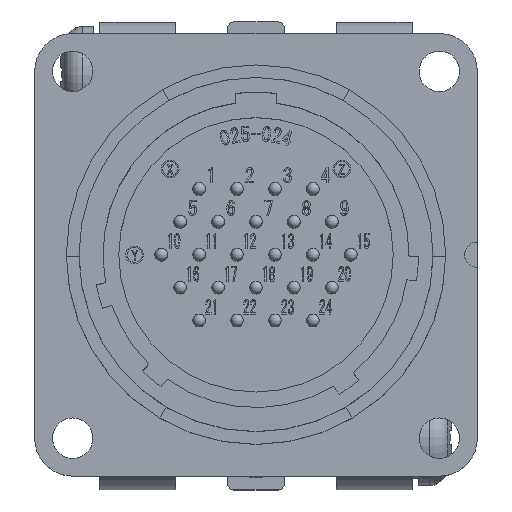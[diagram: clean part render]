
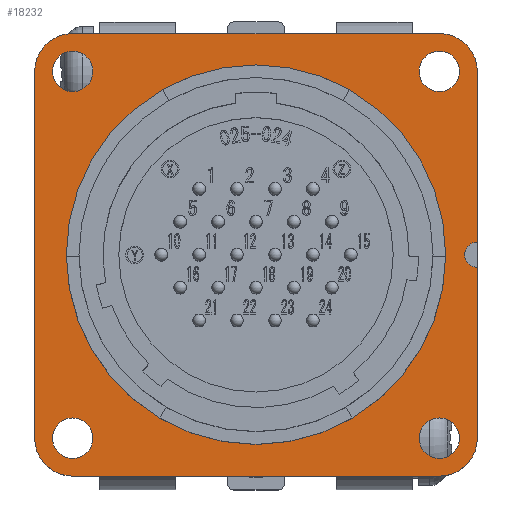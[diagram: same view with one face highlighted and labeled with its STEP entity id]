
A CAD part, top view. The second image highlights one B-rep face of the part: STEP entity #18232.
In plain terms, the highlighted planar face has unit normal (0, 0, 1).
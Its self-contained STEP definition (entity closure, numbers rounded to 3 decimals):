
#2457 = VERTEX_POINT ( 'NONE', #89855 ) ;
#3233 = VERTEX_POINT ( 'NONE', #21543 ) ;
#4975 = DIRECTION ( 'NONE',  ( 1., 0., 0. ) ) ;
#5155 = EDGE_LOOP ( 'NONE', ( #88575, #32588, #54347, #56428, #83318, #48705, #31667, #68125, #7923, #65240 ) ) ;
#5690 = ORIENTED_EDGE ( 'NONE', *, *, #22711, .T. ) ;
#7923 = ORIENTED_EDGE ( 'NONE', *, *, #18303, .F. ) ;
#9465 = EDGE_LOOP ( 'NONE', ( #5690 ) ) ;
#9801 = DIRECTION ( 'NONE',  ( 0., 0., -1. ) ) ;
#9859 = EDGE_CURVE ( 'NONE', #51423, #66897, #44159, .T. ) ;
#10629 = DIRECTION ( 'NONE',  ( 0., 0., 1. ) ) ;
#11690 = DIRECTION ( 'NONE',  ( 0., 0., -1. ) ) ;
#14929 = AXIS2_PLACEMENT_3D ( 'NONE', #59941, #11690, #47399 ) ;
#15503 = CIRCLE ( 'NONE', #14929, 15. ) ;
#15597 = CARTESIAN_POINT ( 'NONE',  ( -14.5, -17.5, -10.5 ) ) ;
#15775 = CIRCLE ( 'NONE', #89215, 3. ) ;
#15995 = EDGE_CURVE ( 'NONE', #46433, #46433, #22365, .T. ) ;
#17034 = VERTEX_POINT ( 'NONE', #72646 ) ;
#17322 = VERTEX_POINT ( 'NONE', #59138 ) ;
#17323 = CARTESIAN_POINT ( 'NONE',  ( 0., -17.5, -10.5 ) ) ;
#17429 = DIRECTION ( 'NONE',  ( 0., 1., 0. ) ) ;
#18232 = ADVANCED_FACE ( 'NONE', ( #63535, #25496, #61320, #31081, #64522, #35458 ), #38281, .F. ) ;
#18303 = EDGE_CURVE ( 'NONE', #50312, #75865, #36651, .T. ) ;
#19734 = EDGE_LOOP ( 'NONE', ( #62527 ) ) ;
#20886 = EDGE_LOOP ( 'NONE', ( #87655 ) ) ;
#20913 = CARTESIAN_POINT ( 'NONE',  ( 17.5, 0., -10.5 ) ) ;
#20923 = VECTOR ( 'NONE', #67620, 1000. ) ;
#21268 = AXIS2_PLACEMENT_3D ( 'NONE', #76579, #55677, #4975 ) ;
#21281 = LINE ( 'NONE', #37541, #81807 ) ;
#21543 = CARTESIAN_POINT ( 'NONE',  ( -17.5, -14.5, -10.5 ) ) ;
#22365 = CIRCLE ( 'NONE', #31670, 1.6 ) ;
#22430 = CIRCLE ( 'NONE', #36483, 1.6 ) ;
#22711 = EDGE_CURVE ( 'NONE', #82238, #82238, #28093, .T. ) ;
#22971 = CARTESIAN_POINT ( 'NONE',  ( 14.5, -17.5, -10.5 ) ) ;
#23040 = EDGE_CURVE ( 'NONE', #17322, #51423, #21281, .T. ) ;
#24821 = CARTESIAN_POINT ( 'NONE',  ( -17.5, 14.5, -10.5 ) ) ;
#25496 = FACE_BOUND ( 'NONE', #9465, .T. ) ;
#27663 = AXIS2_PLACEMENT_3D ( 'NONE', #64743, #86965, #43507 ) ;
#28093 = CIRCLE ( 'NONE', #27663, 1.6 ) ;
#28843 = EDGE_CURVE ( 'NONE', #86715, #86715, #58755, .T. ) ;
#31081 = FACE_BOUND ( 'NONE', #84624, .T. ) ;
#31667 = ORIENTED_EDGE ( 'NONE', *, *, #40607, .F. ) ;
#31670 = AXIS2_PLACEMENT_3D ( 'NONE', #84663, #69596, #63382 ) ;
#32108 = DIRECTION ( 'NONE',  ( 0., 0., -1. ) ) ;
#32588 = ORIENTED_EDGE ( 'NONE', *, *, #78111, .F. ) ;
#33194 = DIRECTION ( 'NONE',  ( 0., 0., -1. ) ) ;
#33805 = CARTESIAN_POINT ( 'NONE',  ( 17.5, 14.5, -10.5 ) ) ;
#35458 = FACE_BOUND ( 'NONE', #67460, .T. ) ;
#35691 = VERTEX_POINT ( 'NONE', #89982 ) ;
#36483 = AXIS2_PLACEMENT_3D ( 'NONE', #74958, #32108, #39301 ) ;
#36651 = LINE ( 'NONE', #17323, #20923 ) ;
#37346 = CARTESIAN_POINT ( 'NONE',  ( -16.1, 14.5, -10.5 ) ) ;
#37541 = CARTESIAN_POINT ( 'NONE',  ( 0., 17.5, -10.5 ) ) ;
#38281 = PLANE ( 'NONE',  #44281 ) ;
#39301 = DIRECTION ( 'NONE',  ( 1., 0., 0. ) ) ;
#40607 = EDGE_CURVE ( 'NONE', #3233, #58183, #72146, .T. ) ;
#43202 = CARTESIAN_POINT ( 'NONE',  ( 14.5, 14.5, -10.5 ) ) ;
#43507 = DIRECTION ( 'NONE',  ( -1., 0., 0. ) ) ;
#43597 = DIRECTION ( 'NONE',  ( 0., 0., 1. ) ) ;
#43931 = CARTESIAN_POINT ( 'NONE',  ( 14.5, 16.1, -10.5 ) ) ;
#44159 = CIRCLE ( 'NONE', #84104, 3. ) ;
#44281 = AXIS2_PLACEMENT_3D ( 'NONE', #88322, #9801, #66705 ) ;
#46433 = VERTEX_POINT ( 'NONE', #92693 ) ;
#46921 = CARTESIAN_POINT ( 'NONE',  ( 14.5, -14.5, -10.5 ) ) ;
#47399 = DIRECTION ( 'NONE',  ( -1., 0., 0. ) ) ;
#47797 = VECTOR ( 'NONE', #56897, 1000. ) ;
#48705 = ORIENTED_EDGE ( 'NONE', *, *, #72066, .T. ) ;
#48800 = VECTOR ( 'NONE', #73214, 1000. ) ;
#49079 = CIRCLE ( 'NONE', #88652, 3. ) ;
#50312 = VERTEX_POINT ( 'NONE', #22971 ) ;
#51124 = CARTESIAN_POINT ( 'NONE',  ( 14.5, 17.5, -10.5 ) ) ;
#51423 = VERTEX_POINT ( 'NONE', #51124 ) ;
#53401 = CIRCLE ( 'NONE', #79196, 3. ) ;
#53432 = CARTESIAN_POINT ( 'NONE',  ( -17.5, 0., -10.5 ) ) ;
#54140 = EDGE_CURVE ( 'NONE', #2457, #35691, #62337, .T. ) ;
#54217 = DIRECTION ( 'NONE',  ( -1., 0., 0. ) ) ;
#54347 = ORIENTED_EDGE ( 'NONE', *, *, #54931, .F. ) ;
#54462 = DIRECTION ( 'NONE',  ( -1., 0., 0. ) ) ;
#54811 = DIRECTION ( 'NONE',  ( -1., 0., 0. ) ) ;
#54931 = EDGE_CURVE ( 'NONE', #66897, #17034, #80117, .T. ) ;
#55084 = ORIENTED_EDGE ( 'NONE', *, *, #15995, .T. ) ;
#55677 = DIRECTION ( 'NONE',  ( 0., 0., 1. ) ) ;
#56033 = CARTESIAN_POINT ( 'NONE',  ( -14.5, 14.5, -10.5 ) ) ;
#56428 = ORIENTED_EDGE ( 'NONE', *, *, #9859, .F. ) ;
#56897 = DIRECTION ( 'NONE',  ( 0., -1., 0. ) ) ;
#58183 = VERTEX_POINT ( 'NONE', #24821 ) ;
#58531 = DIRECTION ( 'NONE',  ( 1., 0., 0. ) ) ;
#58755 = CIRCLE ( 'NONE', #85345, 1.6 ) ;
#59138 = CARTESIAN_POINT ( 'NONE',  ( -14.5, 17.5, -10.5 ) ) ;
#59941 = CARTESIAN_POINT ( 'NONE',  ( 0., 0., -10.5 ) ) ;
#61320 = FACE_BOUND ( 'NONE', #20886, .T. ) ;
#61372 = CARTESIAN_POINT ( 'NONE',  ( 14.5, 14.5, -10.5 ) ) ;
#61965 = DIRECTION ( 'NONE',  ( 0., 0., 1. ) ) ;
#62337 = LINE ( 'NONE', #20913, #47797 ) ;
#62527 = ORIENTED_EDGE ( 'NONE', *, *, #85838, .T. ) ;
#63382 = DIRECTION ( 'NONE',  ( 0., -1., 0. ) ) ;
#63535 = FACE_OUTER_BOUND ( 'NONE', #5155, .T. ) ;
#63760 = ORIENTED_EDGE ( 'NONE', *, *, #28843, .T. ) ;
#64522 = FACE_BOUND ( 'NONE', #19734, .T. ) ;
#64743 = CARTESIAN_POINT ( 'NONE',  ( -14.5, 14.5, -10.5 ) ) ;
#65240 = ORIENTED_EDGE ( 'NONE', *, *, #85443, .T. ) ;
#66705 = DIRECTION ( 'NONE',  ( 0., -1., 0. ) ) ;
#66897 = VERTEX_POINT ( 'NONE', #33805 ) ;
#67460 = EDGE_LOOP ( 'NONE', ( #55084 ) ) ;
#67620 = DIRECTION ( 'NONE',  ( -1., 0., 0. ) ) ;
#68125 = ORIENTED_EDGE ( 'NONE', *, *, #69606, .T. ) ;
#68380 = CIRCLE ( 'NONE', #21268, 1. ) ;
#69330 = EDGE_CURVE ( 'NONE', #74300, #74300, #15503, .T. ) ;
#69596 = DIRECTION ( 'NONE',  ( 0., 0., -1. ) ) ;
#69606 = EDGE_CURVE ( 'NONE', #3233, #75865, #49079, .T. ) ;
#70113 = CARTESIAN_POINT ( 'NONE',  ( 16.1, -14.5, -10.5 ) ) ;
#71067 = CARTESIAN_POINT ( 'NONE',  ( -14.5, -14.5, -10.5 ) ) ;
#71389 = DIRECTION ( 'NONE',  ( -1., 0., 0. ) ) ;
#72066 = EDGE_CURVE ( 'NONE', #17322, #58183, #53401, .T. ) ;
#72146 = LINE ( 'NONE', #53432, #86731 ) ;
#72646 = CARTESIAN_POINT ( 'NONE',  ( 17.5, 1., -10.5 ) ) ;
#73214 = DIRECTION ( 'NONE',  ( 0., -1., 0. ) ) ;
#74300 = VERTEX_POINT ( 'NONE', #75062 ) ;
#74958 = CARTESIAN_POINT ( 'NONE',  ( 14.5, -14.5, -10.5 ) ) ;
#75062 = CARTESIAN_POINT ( 'NONE',  ( -15., 0., -10.5 ) ) ;
#75865 = VERTEX_POINT ( 'NONE', #15597 ) ;
#76579 = CARTESIAN_POINT ( 'NONE',  ( 17.5, 0., -10.5 ) ) ;
#78111 = EDGE_CURVE ( 'NONE', #17034, #2457, #68380, .T. ) ;
#78507 = DIRECTION ( 'NONE',  ( 0., 1., 0. ) ) ;
#79196 = AXIS2_PLACEMENT_3D ( 'NONE', #56033, #61965, #54811 ) ;
#80117 = LINE ( 'NONE', #87012, #48800 ) ;
#81807 = VECTOR ( 'NONE', #58531, 1000. ) ;
#82238 = VERTEX_POINT ( 'NONE', #37346 ) ;
#83270 = VERTEX_POINT ( 'NONE', #70113 ) ;
#83318 = ORIENTED_EDGE ( 'NONE', *, *, #23040, .F. ) ;
#84104 = AXIS2_PLACEMENT_3D ( 'NONE', #61372, #33194, #54217 ) ;
#84624 = EDGE_LOOP ( 'NONE', ( #63760 ) ) ;
#84663 = CARTESIAN_POINT ( 'NONE',  ( -14.5, -14.5, -10.5 ) ) ;
#85345 = AXIS2_PLACEMENT_3D ( 'NONE', #43202, #85433, #78507 ) ;
#85433 = DIRECTION ( 'NONE',  ( 0., 0., -1. ) ) ;
#85443 = EDGE_CURVE ( 'NONE', #50312, #35691, #15775, .T. ) ;
#85838 = EDGE_CURVE ( 'NONE', #83270, #83270, #22430, .T. ) ;
#86715 = VERTEX_POINT ( 'NONE', #43931 ) ;
#86731 = VECTOR ( 'NONE', #17429, 1000. ) ;
#86965 = DIRECTION ( 'NONE',  ( 0., 0., -1. ) ) ;
#87012 = CARTESIAN_POINT ( 'NONE',  ( 17.5, 0., -10.5 ) ) ;
#87655 = ORIENTED_EDGE ( 'NONE', *, *, #69330, .T. ) ;
#88322 = CARTESIAN_POINT ( 'NONE',  ( 0., 17.5, -10.5 ) ) ;
#88575 = ORIENTED_EDGE ( 'NONE', *, *, #54140, .F. ) ;
#88652 = AXIS2_PLACEMENT_3D ( 'NONE', #71067, #43597, #71389 ) ;
#89215 = AXIS2_PLACEMENT_3D ( 'NONE', #46921, #10629, #54462 ) ;
#89855 = CARTESIAN_POINT ( 'NONE',  ( 17.5, -1., -10.5 ) ) ;
#89982 = CARTESIAN_POINT ( 'NONE',  ( 17.5, -14.5, -10.5 ) ) ;
#92693 = CARTESIAN_POINT ( 'NONE',  ( -14.5, -16.1, -10.5 ) ) ;
